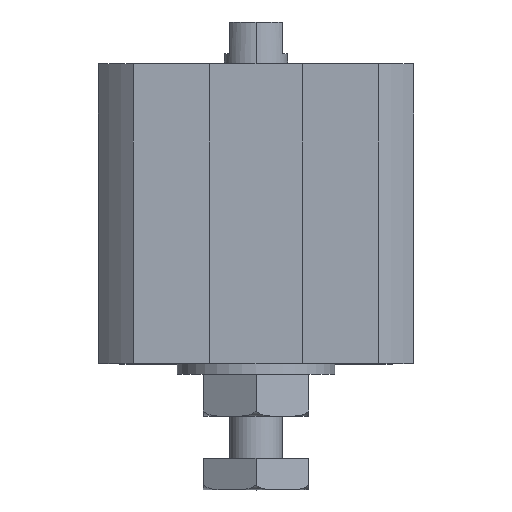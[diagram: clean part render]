
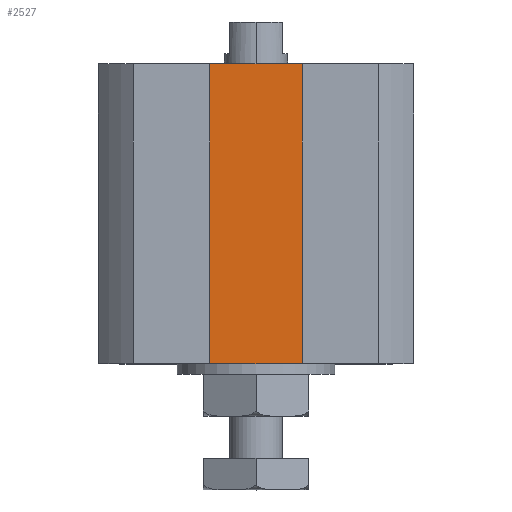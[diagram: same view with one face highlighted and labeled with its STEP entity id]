
A CAD part, top view. The second image highlights one B-rep face of the part: STEP entity #2527.
In plain terms, the highlighted planar face has unit normal (0, 0, 1).
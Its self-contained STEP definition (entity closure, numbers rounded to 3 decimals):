
#151 = VECTOR ( 'NONE', #3192, 1000. ) ;
#246 = VECTOR ( 'NONE', #2586, 1000. ) ;
#459 = PLANE ( 'NONE',  #2968 ) ;
#745 = DIRECTION ( 'NONE',  ( 0., 0., 1. ) ) ;
#842 = ORIENTED_EDGE ( 'NONE', *, *, #1840, .T. ) ;
#881 = CARTESIAN_POINT ( 'NONE',  ( 0., -28.5, 10. ) ) ;
#903 = DIRECTION ( 'NONE',  ( 1., 0., 0. ) ) ;
#930 = CARTESIAN_POINT ( 'NONE',  ( 4.4, -28.5, 10. ) ) ;
#1196 = CARTESIAN_POINT ( 'NONE',  ( -4.4, -28.5, 10. ) ) ;
#1246 = EDGE_CURVE ( 'NONE', #3064, #2135, #3305, .T. ) ;
#1260 = ORIENTED_EDGE ( 'NONE', *, *, #3143, .T. ) ;
#1427 = CARTESIAN_POINT ( 'NONE',  ( 0., 0., 10. ) ) ;
#1446 = DIRECTION ( 'NONE',  ( 0., 1., 0. ) ) ;
#1655 = LINE ( 'NONE', #1196, #151 ) ;
#1679 = CARTESIAN_POINT ( 'NONE',  ( -4.4, 0., 10. ) ) ;
#1813 = ORIENTED_EDGE ( 'NONE', *, *, #1246, .F. ) ;
#1840 = EDGE_CURVE ( 'NONE', #3557, #2135, #2775, .T. ) ;
#2135 = VERTEX_POINT ( 'NONE', #2338 ) ;
#2221 = CARTESIAN_POINT ( 'NONE',  ( -4.4, -28.5, 10. ) ) ;
#2225 = EDGE_CURVE ( 'NONE', #2519, #3064, #1655, .T. ) ;
#2313 = EDGE_LOOP ( 'NONE', ( #1813, #2359, #1260, #842 ) ) ;
#2338 = CARTESIAN_POINT ( 'NONE',  ( 4.4, 0., 10. ) ) ;
#2359 = ORIENTED_EDGE ( 'NONE', *, *, #2225, .F. ) ;
#2452 = FACE_OUTER_BOUND ( 'NONE', #2313, .T. ) ;
#2454 = CARTESIAN_POINT ( 'NONE',  ( 0., -28.5, 10. ) ) ;
#2519 = VERTEX_POINT ( 'NONE', #2221 ) ;
#2527 = ADVANCED_FACE ( 'NONE', ( #2452 ), #459, .T. ) ;
#2586 = DIRECTION ( 'NONE',  ( 1., 0., 0. ) ) ;
#2638 = VECTOR ( 'NONE', #903, 1000. ) ;
#2682 = VECTOR ( 'NONE', #1446, 1000. ) ;
#2775 = LINE ( 'NONE', #930, #2682 ) ;
#2968 = AXIS2_PLACEMENT_3D ( 'NONE', #2454, #745, #3031 ) ;
#3031 = DIRECTION ( 'NONE',  ( 1., 0., 0. ) ) ;
#3064 = VERTEX_POINT ( 'NONE', #1679 ) ;
#3087 = LINE ( 'NONE', #881, #2638 ) ;
#3143 = EDGE_CURVE ( 'NONE', #2519, #3557, #3087, .T. ) ;
#3192 = DIRECTION ( 'NONE',  ( 0., 1., 0. ) ) ;
#3265 = CARTESIAN_POINT ( 'NONE',  ( 4.4, -28.5, 10. ) ) ;
#3305 = LINE ( 'NONE', #1427, #246 ) ;
#3557 = VERTEX_POINT ( 'NONE', #3265 ) ;
